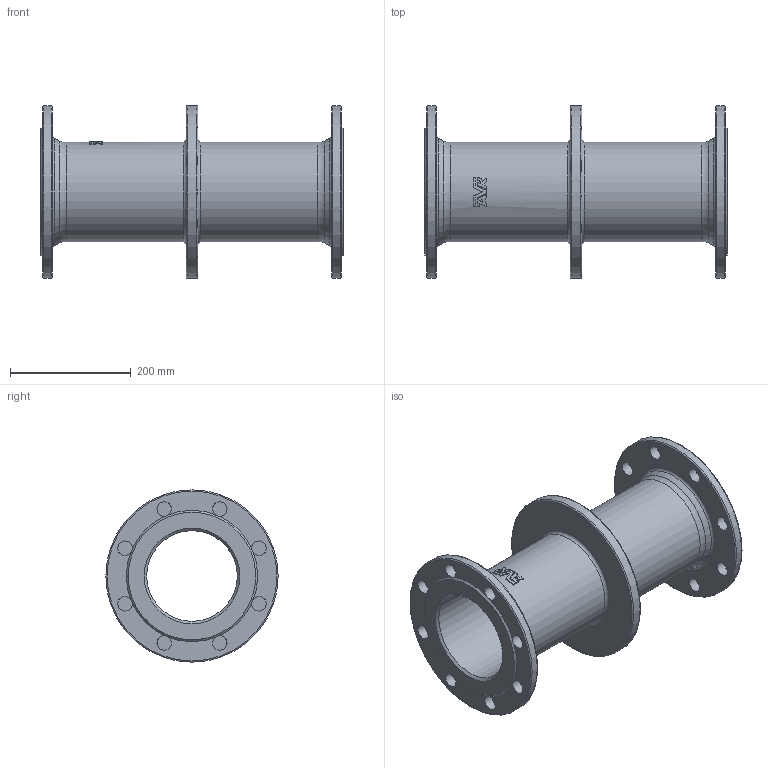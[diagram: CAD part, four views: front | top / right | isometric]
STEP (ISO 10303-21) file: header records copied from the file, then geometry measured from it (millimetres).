
FILE_DESCRIPTION (( 'STEP AP203' ), '1' );
FILE_NAME ('O_712_6010_DN150_1_AA0.step', '2019-07-09T09:31:07', ( 'Windows User' ), ( 'AVK' ), 'SwSTEP 2.0', 'SolidWorks 2012', '' );
FILE_SCHEMA (( 'CONFIG_CONTROL_DESIGN' ));
Length unit declared in the file: millimetre
Products named in the file (1): O_712_6010_DN150_1_AA0
Bounding box: 500 x 285 x 285 mm (x, y, z)
Volume: 3947449.3 mm3; surface area: 763703 mm2
Topology: 1 solids, 1 shells, 89 faces, 271 edges, 177 vertices
Faces by surface type: plane 28, cylinder 26, bspline 17, torus 12, cone 6
Full cylindrical faces by diameter (mm): 24 x16, 150 x1, 164 x2, 285 x3
Entity records: 3413 total; most frequent: CARTESIAN_POINT 1287, ORIENTED_EDGE 410, DIRECTION 382, EDGE_CURVE 205, AXIS2_PLACEMENT_3D 183, EDGE_LOOP 157, VERTEX_POINT 152, FACE_OUTER_BOUND 123
